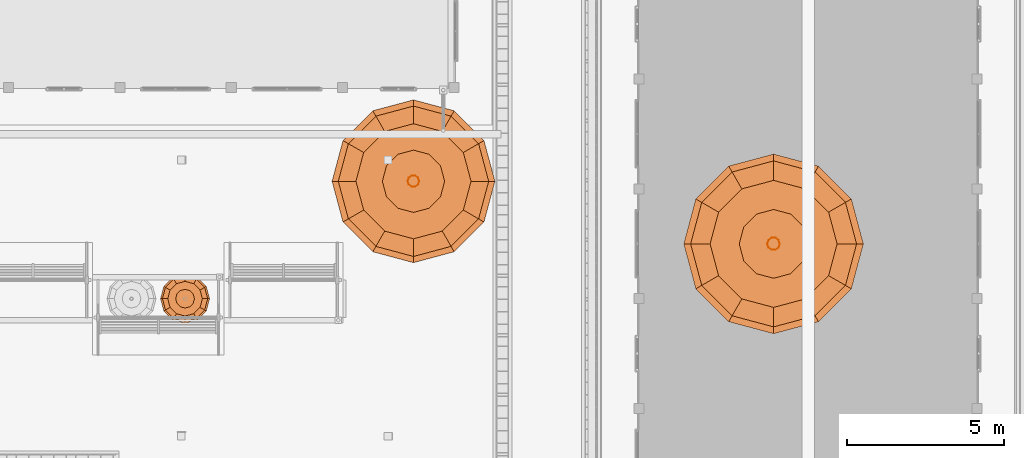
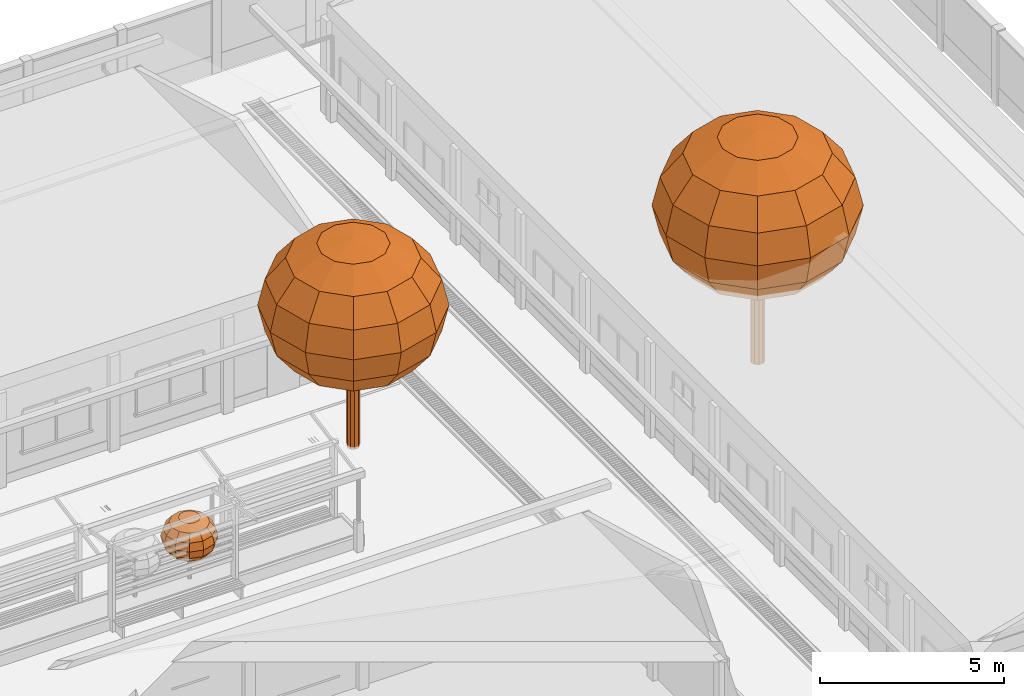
# One storey, part 162 of 166: 5 proxies.
"""IFC2X3 building model written with IfcOpenShell, lengths in metres."""

from ifc_helpers import new_model, si_unit, origin, origin_with_axes, place, context, subcontext, project, spatial, faceted_brep, element, save


model = new_model("IFC2X3")

# Units and contexts
model_context = context("Model", 3, precision=1e-05, world=origin_with_axes())
body_context = subcontext(model_context, "Body", "Model", "MODEL_VIEW")
ifc_project = project(units=[si_unit("LENGTHUNIT", "METRE"), si_unit("AREAUNIT", "SQUARE_METRE"), si_unit("VOLUMEUNIT", "CUBIC_METRE"), si_unit("PLANEANGLEUNIT", "RADIAN")], contexts=[model_context])

# Site, building, storey
site_placement = place(None, origin_with_axes())
site = spatial("IfcSite", under=ifc_project, at=site_placement, Name="Predio Los Mangos - Morales, San Martín", CompositionType="ELEMENT")
building_placement = place(site_placement, origin())
building = spatial("IfcBuilding", under=site, at=building_placement, Name="Hogar de Refugio Temporal", CompositionType="ELEMENT")
storey_placement = place(building_placement, origin())
storey = spatial("IfcBuildingStorey", under=building, at=storey_placement, Name="NIVEL 1 (NPT +0.00)", CompositionType="ELEMENT", Elevation=0.0)

# Proxies
proxy_1_placement = place(storey_placement, origin())
element("IfcBuildingElementProxy", 1, at=proxy_1_placement, inside=storey, Name="arbol_tronco", ObjectType="Árbol", context=body_context, shape_type="Brep", body=[
    faceted_brep([(48.6808, 114.0, 0.0), (48.6463, 114.1063, 0.0), (48.6463, 114.1063, 2.7122), (48.5559, 114.172, 0.0), (48.5559, 114.172, 2.7122), (48.4441, 114.172, 0.0), (48.4441, 114.172, 2.7122), (48.3537, 114.1063, 0.0), (48.3537, 114.1063, 2.7122), (48.3192, 114.0, 0.0), (48.3192, 114.0, 2.7122), (48.3537, 113.8937, 0.0), (48.3537, 113.8937, 2.7122), (48.4441, 113.828, 0.0), (48.4441, 113.828, 2.7122), (48.5559, 113.828, 0.0), (48.5559, 113.828, 2.7122), (48.6463, 113.8937, 0.0), (48.6463, 113.8937, 2.7122), (48.6808, 114.0, 2.7122)], [[[0, 1, 2]], [[1, 3, 4]], [[3, 5, 6]], [[5, 7, 8]], [[7, 9, 10]], [[9, 11, 12]], [[11, 13, 14]], [[13, 15, 16]], [[15, 17, 18]], [[17, 0, 19]], [[0, 2, 19]], [[1, 4, 2]], [[3, 6, 4]], [[5, 8, 6]], [[7, 10, 8]], [[9, 12, 10]], [[11, 14, 12]], [[13, 16, 14]], [[15, 18, 16]], [[17, 19, 18]]]),
])
proxy_2_placement = place(storey_placement, origin())
element("IfcBuildingElementProxy", 2, at=proxy_2_placement, inside=storey, Name="arbol_copa", ObjectType="Árbol", context=body_context, shape_type="Brep", body=[
    faceted_brep([(48.5, 114.0, 6.871), (48.5, 114.0, 6.871), (49.3614, 114.4973, 6.7028), (49.4947, 114.0, 6.7028), (48.5, 114.0, 6.871), (48.9973, 114.8614, 6.7028), (48.5, 114.0, 6.871), (48.5, 114.9947, 6.7028), (48.5, 114.0, 6.871), (48.0027, 114.8614, 6.7028), (48.5, 114.0, 6.871), (47.6386, 114.4973, 6.7028), (48.5, 114.0, 6.871), (47.5053, 114.0, 6.7028), (48.5, 114.0, 6.871), (47.6386, 113.5027, 6.7028), (48.5, 114.0, 6.871), (48.0027, 113.1386, 6.7028), (48.5, 114.0, 6.871), (48.5, 113.0053, 6.7028), (48.5, 114.0, 6.871), (48.9973, 113.1386, 6.7028), (48.5, 114.0, 6.871), (49.3614, 113.5027, 6.7028), (50.0917, 114.919, 6.2239), (50.3379, 114.0, 6.2239), (49.419, 115.5917, 6.2239), (48.5, 115.8379, 6.2239), (47.581, 115.5917, 6.2239), (46.9083, 114.919, 6.2239), (46.6621, 114.0, 6.2239), (46.9083, 113.081, 6.2239), (47.581, 112.4083, 6.2239), (48.5, 112.1621, 6.2239), (49.419, 112.4083, 6.2239), (50.0917, 113.081, 6.2239), (50.5796, 115.2007, 5.5071), (50.9014, 114.0, 5.5071), (49.7007, 116.0796, 5.5071), (48.5, 116.4014, 5.5071), (47.2993, 116.0796, 5.5071), (46.4204, 115.2007, 5.5071), (46.0986, 114.0, 5.5071), (46.4204, 112.7993, 5.5071), (47.2993, 111.9204, 5.5071), (48.5, 111.5986, 5.5071), (49.7007, 111.9204, 5.5071), (50.5796, 112.7993, 5.5071), (50.751, 115.2996, 4.6616), (51.0992, 114.0, 4.6616), (49.7996, 116.251, 4.6616), (48.5, 116.5992, 4.6616), (47.2004, 116.251, 4.6616), (46.249, 115.2996, 4.6616), (45.9008, 114.0, 4.6616), (46.249, 112.7004, 4.6616), (47.2004, 111.749, 4.6616), (48.5, 111.4008, 4.6616), (49.7996, 111.749, 4.6616), (50.751, 112.7004, 4.6616), (50.5796, 115.2007, 3.8162), (50.9014, 114.0, 3.8162), (49.7007, 116.0796, 3.8162), (48.5, 116.4014, 3.8162), (47.2993, 116.0796, 3.8162), (46.4204, 115.2007, 3.8162), (46.0986, 114.0, 3.8162), (46.4204, 112.7993, 3.8162), (47.2993, 111.9204, 3.8162), (48.5, 111.5986, 3.8162), (49.7007, 111.9204, 3.8162), (50.5796, 112.7993, 3.8162), (50.0917, 114.919, 3.0994), (50.3379, 114.0, 3.0994), (49.419, 115.5917, 3.0994), (48.5, 115.8379, 3.0994), (47.581, 115.5917, 3.0994), (46.9083, 114.919, 3.0994), (46.6621, 114.0, 3.0994), (46.9083, 113.081, 3.0994), (47.581, 112.4083, 3.0994), (48.5, 112.1621, 3.0994), (49.419, 112.4083, 3.0994), (50.0917, 113.081, 3.0994), (49.3614, 114.4973, 2.6205), (49.4947, 114.0, 2.6205), (48.9973, 114.8614, 2.6205), (48.5, 114.9947, 2.6205), (48.0027, 114.8614, 2.6205), (47.6386, 114.4973, 2.6205), (47.5053, 114.0, 2.6205), (47.6386, 113.5027, 2.6205), (48.0027, 113.1386, 2.6205), (48.5, 113.0053, 2.6205), (48.9973, 113.1386, 2.6205), (49.3614, 113.5027, 2.6205), (48.5, 114.0, 2.4523), (48.5, 114.0, 2.4523), (48.5, 114.0, 2.4523), (48.5, 114.0, 2.4523), (48.5, 114.0, 2.4523), (48.5, 114.0, 2.4523), (48.5, 114.0, 2.4523), (48.5, 114.0, 2.4523), (48.5, 114.0, 2.4523), (48.5, 114.0, 2.4523), (48.5, 114.0, 2.4523), (48.5, 114.0, 2.4523)], [[[0, 1, 2]], [[0, 2, 3]], [[1, 4, 5]], [[1, 5, 2]], [[4, 6, 7]], [[4, 7, 5]], [[6, 8, 9]], [[6, 9, 7]], [[8, 10, 11]], [[8, 11, 9]], [[10, 12, 13]], [[10, 13, 11]], [[12, 14, 15]], [[12, 15, 13]], [[14, 16, 17]], [[14, 17, 15]], [[16, 18, 19]], [[16, 19, 17]], [[18, 20, 21]], [[18, 21, 19]], [[20, 22, 23]], [[20, 23, 21]], [[22, 0, 3]], [[22, 3, 23]], [[3, 2, 24]], [[3, 24, 25]], [[2, 5, 26]], [[2, 26, 24]], [[5, 7, 27]], [[5, 27, 26]], [[7, 9, 28]], [[7, 28, 27]], [[9, 11, 29]], [[9, 29, 28]], [[11, 13, 30]], [[11, 30, 29]], [[13, 15, 31]], [[13, 31, 30]], [[15, 17, 32]], [[15, 32, 31]], [[17, 19, 33]], [[17, 33, 32]], [[19, 21, 34]], [[19, 34, 33]], [[21, 23, 35]], [[21, 35, 34]], [[23, 3, 25]], [[23, 25, 35]], [[25, 24, 36]], [[25, 36, 37]], [[24, 26, 38]], [[24, 38, 36]], [[26, 27, 39]], [[26, 39, 38]], [[27, 28, 40]], [[27, 40, 39]], [[28, 29, 41]], [[28, 41, 40]], [[29, 30, 42]], [[29, 42, 41]], [[30, 31, 43]], [[30, 43, 42]], [[31, 32, 44]], [[31, 44, 43]], [[32, 33, 45]], [[32, 45, 44]], [[33, 34, 46]], [[33, 46, 45]], [[34, 35, 47]], [[34, 47, 46]], [[35, 25, 37]], [[35, 37, 47]], [[37, 36, 48]], [[37, 48, 49]], [[36, 38, 50]], [[36, 50, 48]], [[38, 39, 51]], [[38, 51, 50]], [[39, 40, 52]], [[39, 52, 51]], [[40, 41, 53]], [[40, 53, 52]], [[41, 42, 54]], [[41, 54, 53]], [[42, 43, 55]], [[42, 55, 54]], [[43, 44, 56]], [[43, 56, 55]], [[44, 45, 57]], [[44, 57, 56]], [[45, 46, 58]], [[45, 58, 57]], [[46, 47, 59]], [[46, 59, 58]], [[47, 37, 49]], [[47, 49, 59]], [[49, 48, 60]], [[49, 60, 61]], [[48, 50, 62]], [[48, 62, 60]], [[50, 51, 63]], [[50, 63, 62]], [[51, 52, 64]], [[51, 64, 63]], [[52, 53, 65]], [[52, 65, 64]], [[53, 54, 66]], [[53, 66, 65]], [[54, 55, 67]], [[54, 67, 66]], [[55, 56, 68]], [[55, 68, 67]], [[56, 57, 69]], [[56, 69, 68]], [[57, 58, 70]], [[57, 70, 69]], [[58, 59, 71]], [[58, 71, 70]], [[59, 49, 61]], [[59, 61, 71]], [[61, 60, 72]], [[61, 72, 73]], [[60, 62, 74]], [[60, 74, 72]], [[62, 63, 75]], [[62, 75, 74]], [[63, 64, 76]], [[63, 76, 75]], [[64, 65, 77]], [[64, 77, 76]], [[65, 66, 78]], [[65, 78, 77]], [[66, 67, 79]], [[66, 79, 78]], [[67, 68, 80]], [[67, 80, 79]], [[68, 69, 81]], [[68, 81, 80]], [[69, 70, 82]], [[69, 82, 81]], [[70, 71, 83]], [[70, 83, 82]], [[71, 61, 73]], [[71, 73, 83]], [[73, 72, 84]], [[73, 84, 85]], [[72, 74, 86]], [[72, 86, 84]], [[74, 75, 87]], [[74, 87, 86]], [[75, 76, 88]], [[75, 88, 87]], [[76, 77, 89]], [[76, 89, 88]], [[77, 78, 90]], [[77, 90, 89]], [[78, 79, 91]], [[78, 91, 90]], [[79, 80, 92]], [[79, 92, 91]], [[80, 81, 93]], [[80, 93, 92]], [[81, 82, 94]], [[81, 94, 93]], [[82, 83, 95]], [[82, 95, 94]], [[83, 73, 85]], [[83, 85, 95]], [[85, 84, 96]], [[85, 96, 97]], [[84, 86, 98]], [[84, 98, 96]], [[86, 87, 99]], [[86, 99, 98]], [[87, 88, 100]], [[87, 100, 99]], [[88, 89, 101]], [[88, 101, 100]], [[89, 90, 102]], [[89, 102, 101]], [[90, 91, 103]], [[90, 103, 102]], [[91, 92, 104]], [[91, 104, 103]], [[92, 93, 105]], [[92, 105, 104]], [[93, 94, 106]], [[93, 106, 105]], [[94, 95, 107]], [[94, 107, 106]], [[95, 85, 97]], [[95, 97, 107]]]),
])
proxy_3_placement = place(storey_placement, origin())
element("IfcBuildingElementProxy", 3, at=proxy_3_placement, inside=storey, Name="arbol_tronco", ObjectType="Árbol", context=body_context, shape_type="Brep", body=[
    faceted_brep([(60.1996, 112.0, 0.0), (60.1614, 112.1173, 0.0), (60.1614, 112.1173, 2.9934), (60.0617, 112.1898, 0.0), (60.0617, 112.1898, 2.9934), (59.9383, 112.1898, 0.0), (59.9383, 112.1898, 2.9934), (59.8386, 112.1173, 0.0), (59.8386, 112.1173, 2.9934), (59.8004, 112.0, 0.0), (59.8004, 112.0, 2.9934), (59.8386, 111.8827, 0.0), (59.8386, 111.8827, 2.9934), (59.9383, 111.8102, 0.0), (59.9383, 111.8102, 2.9934), (60.0617, 111.8102, 0.0), (60.0617, 111.8102, 2.9934), (60.1614, 111.8827, 0.0), (60.1614, 111.8827, 2.9934), (60.1996, 112.0, 2.9934)], [[[0, 1, 2]], [[1, 3, 4]], [[3, 5, 6]], [[5, 7, 8]], [[7, 9, 10]], [[9, 11, 12]], [[11, 13, 14]], [[13, 15, 16]], [[15, 17, 18]], [[17, 0, 19]], [[0, 2, 19]], [[1, 4, 2]], [[3, 6, 4]], [[5, 8, 6]], [[7, 10, 8]], [[9, 12, 10]], [[11, 14, 12]], [[13, 16, 14]], [[15, 18, 16]], [[17, 19, 18]]]),
])
proxy_4_placement = place(storey_placement, origin())
element("IfcBuildingElementProxy", 4, at=proxy_4_placement, inside=storey, Name="arbol_copa", ObjectType="Árbol", context=body_context, shape_type="Brep", body=[
    faceted_brep([(60.0, 112.0, 7.5832), (60.0, 112.0, 7.5832), (60.9507, 112.5489, 7.3976), (61.0978, 112.0, 7.3976), (60.0, 112.0, 7.5832), (60.5489, 112.9507, 7.3976), (60.0, 112.0, 7.5832), (60.0, 113.0978, 7.3976), (60.0, 112.0, 7.5832), (59.4511, 112.9507, 7.3976), (60.0, 112.0, 7.5832), (59.0493, 112.5489, 7.3976), (60.0, 112.0, 7.5832), (58.9022, 112.0, 7.3976), (60.0, 112.0, 7.5832), (59.0493, 111.4511, 7.3976), (60.0, 112.0, 7.5832), (59.4511, 111.0493, 7.3976), (60.0, 112.0, 7.5832), (60.0, 110.9022, 7.3976), (60.0, 112.0, 7.5832), (60.5489, 111.0493, 7.3976), (60.0, 112.0, 7.5832), (60.9507, 111.4511, 7.3976), (61.7567, 113.0142, 6.869), (62.0284, 112.0, 6.869), (61.0142, 113.7567, 6.869), (60.0, 114.0284, 6.869), (58.9858, 113.7567, 6.869), (58.2433, 113.0142, 6.869), (57.9716, 112.0, 6.869), (58.2433, 110.9858, 6.869), (58.9858, 110.2433, 6.869), (60.0, 109.9716, 6.869), (61.0142, 110.2433, 6.869), (61.7567, 110.9858, 6.869), (62.2952, 113.3251, 6.078), (62.6503, 112.0, 6.078), (61.3251, 114.2952, 6.078), (60.0, 114.6503, 6.078), (58.6749, 114.2952, 6.078), (57.7048, 113.3251, 6.078), (57.3497, 112.0, 6.078), (57.7048, 110.6749, 6.078), (58.6749, 109.7048, 6.078), (60.0, 109.3497, 6.078), (61.3251, 109.7048, 6.078), (62.2952, 110.6749, 6.078), (62.4843, 113.4343, 5.1449), (62.8686, 112.0, 5.1449), (61.4343, 114.4843, 5.1449), (60.0, 114.8686, 5.1449), (58.5657, 114.4843, 5.1449), (57.5157, 113.4343, 5.1449), (57.1314, 112.0, 5.1449), (57.5157, 110.5657, 5.1449), (58.5657, 109.5157, 5.1449), (60.0, 109.1314, 5.1449), (61.4343, 109.5157, 5.1449), (62.4843, 110.5657, 5.1449), (62.2952, 113.3251, 4.2117), (62.6503, 112.0, 4.2117), (61.3251, 114.2952, 4.2117), (60.0, 114.6503, 4.2117), (58.6749, 114.2952, 4.2117), (57.7048, 113.3251, 4.2117), (57.3497, 112.0, 4.2117), (57.7048, 110.6749, 4.2117), (58.6749, 109.7048, 4.2117), (60.0, 109.3497, 4.2117), (61.3251, 109.7048, 4.2117), (62.2952, 110.6749, 4.2117), (61.7567, 113.0142, 3.4207), (62.0284, 112.0, 3.4207), (61.0142, 113.7567, 3.4207), (60.0, 114.0284, 3.4207), (58.9858, 113.7567, 3.4207), (58.2433, 113.0142, 3.4207), (57.9716, 112.0, 3.4207), (58.2433, 110.9858, 3.4207), (58.9858, 110.2433, 3.4207), (60.0, 109.9716, 3.4207), (61.0142, 110.2433, 3.4207), (61.7567, 110.9858, 3.4207), (60.9507, 112.5489, 2.8921), (61.0978, 112.0, 2.8921), (60.5489, 112.9507, 2.8921), (60.0, 113.0978, 2.8921), (59.4511, 112.9507, 2.8921), (59.0493, 112.5489, 2.8921), (58.9022, 112.0, 2.8921), (59.0493, 111.4511, 2.8921), (59.4511, 111.0493, 2.8921), (60.0, 110.9022, 2.8921), (60.5489, 111.0493, 2.8921), (60.9507, 111.4511, 2.8921), (60.0, 112.0, 2.7065), (60.0, 112.0, 2.7065), (60.0, 112.0, 2.7065), (60.0, 112.0, 2.7065), (60.0, 112.0, 2.7065), (60.0, 112.0, 2.7065), (60.0, 112.0, 2.7065), (60.0, 112.0, 2.7065), (60.0, 112.0, 2.7065), (60.0, 112.0, 2.7065), (60.0, 112.0, 2.7065), (60.0, 112.0, 2.7065)], [[[0, 1, 2]], [[0, 2, 3]], [[1, 4, 5]], [[1, 5, 2]], [[4, 6, 7]], [[4, 7, 5]], [[6, 8, 9]], [[6, 9, 7]], [[8, 10, 11]], [[8, 11, 9]], [[10, 12, 13]], [[10, 13, 11]], [[12, 14, 15]], [[12, 15, 13]], [[14, 16, 17]], [[14, 17, 15]], [[16, 18, 19]], [[16, 19, 17]], [[18, 20, 21]], [[18, 21, 19]], [[20, 22, 23]], [[20, 23, 21]], [[22, 0, 3]], [[22, 3, 23]], [[3, 2, 24]], [[3, 24, 25]], [[2, 5, 26]], [[2, 26, 24]], [[5, 7, 27]], [[5, 27, 26]], [[7, 9, 28]], [[7, 28, 27]], [[9, 11, 29]], [[9, 29, 28]], [[11, 13, 30]], [[11, 30, 29]], [[13, 15, 31]], [[13, 31, 30]], [[15, 17, 32]], [[15, 32, 31]], [[17, 19, 33]], [[17, 33, 32]], [[19, 21, 34]], [[19, 34, 33]], [[21, 23, 35]], [[21, 35, 34]], [[23, 3, 25]], [[23, 25, 35]], [[25, 24, 36]], [[25, 36, 37]], [[24, 26, 38]], [[24, 38, 36]], [[26, 27, 39]], [[26, 39, 38]], [[27, 28, 40]], [[27, 40, 39]], [[28, 29, 41]], [[28, 41, 40]], [[29, 30, 42]], [[29, 42, 41]], [[30, 31, 43]], [[30, 43, 42]], [[31, 32, 44]], [[31, 44, 43]], [[32, 33, 45]], [[32, 45, 44]], [[33, 34, 46]], [[33, 46, 45]], [[34, 35, 47]], [[34, 47, 46]], [[35, 25, 37]], [[35, 37, 47]], [[37, 36, 48]], [[37, 48, 49]], [[36, 38, 50]], [[36, 50, 48]], [[38, 39, 51]], [[38, 51, 50]], [[39, 40, 52]], [[39, 52, 51]], [[40, 41, 53]], [[40, 53, 52]], [[41, 42, 54]], [[41, 54, 53]], [[42, 43, 55]], [[42, 55, 54]], [[43, 44, 56]], [[43, 56, 55]], [[44, 45, 57]], [[44, 57, 56]], [[45, 46, 58]], [[45, 58, 57]], [[46, 47, 59]], [[46, 59, 58]], [[47, 37, 49]], [[47, 49, 59]], [[49, 48, 60]], [[49, 60, 61]], [[48, 50, 62]], [[48, 62, 60]], [[50, 51, 63]], [[50, 63, 62]], [[51, 52, 64]], [[51, 64, 63]], [[52, 53, 65]], [[52, 65, 64]], [[53, 54, 66]], [[53, 66, 65]], [[54, 55, 67]], [[54, 67, 66]], [[55, 56, 68]], [[55, 68, 67]], [[56, 57, 69]], [[56, 69, 68]], [[57, 58, 70]], [[57, 70, 69]], [[58, 59, 71]], [[58, 71, 70]], [[59, 49, 61]], [[59, 61, 71]], [[61, 60, 72]], [[61, 72, 73]], [[60, 62, 74]], [[60, 74, 72]], [[62, 63, 75]], [[62, 75, 74]], [[63, 64, 76]], [[63, 76, 75]], [[64, 65, 77]], [[64, 77, 76]], [[65, 66, 78]], [[65, 78, 77]], [[66, 67, 79]], [[66, 79, 78]], [[67, 68, 80]], [[67, 80, 79]], [[68, 69, 81]], [[68, 81, 80]], [[69, 70, 82]], [[69, 82, 81]], [[70, 71, 83]], [[70, 83, 82]], [[71, 61, 73]], [[71, 73, 83]], [[73, 72, 84]], [[73, 84, 85]], [[72, 74, 86]], [[72, 86, 84]], [[74, 75, 87]], [[74, 87, 86]], [[75, 76, 88]], [[75, 88, 87]], [[76, 77, 89]], [[76, 89, 88]], [[77, 78, 90]], [[77, 90, 89]], [[78, 79, 91]], [[78, 91, 90]], [[79, 80, 92]], [[79, 92, 91]], [[80, 81, 93]], [[80, 93, 92]], [[81, 82, 94]], [[81, 94, 93]], [[82, 83, 95]], [[82, 95, 94]], [[83, 73, 85]], [[83, 85, 95]], [[85, 84, 96]], [[85, 96, 97]], [[84, 86, 98]], [[84, 98, 96]], [[86, 87, 99]], [[86, 99, 98]], [[87, 88, 100]], [[87, 100, 99]], [[88, 89, 101]], [[88, 101, 100]], [[89, 90, 102]], [[89, 102, 101]], [[90, 91, 103]], [[90, 103, 102]], [[91, 92, 104]], [[91, 104, 103]], [[92, 93, 105]], [[92, 105, 104]], [[93, 94, 106]], [[93, 106, 105]], [[94, 95, 107]], [[94, 107, 106]], [[95, 85, 97]], [[95, 97, 107]]]),
])
proxy_5_placement = place(storey_placement, origin())
element("IfcBuildingElementProxy", 5, at=proxy_5_placement, inside=storey, Name="arbol_copa", ObjectType="Árbol", context=body_context, shape_type="Brep", body=[
    faceted_brep([(41.205, 110.25, 2.5172), (41.205, 110.25, 2.5172), (41.4642, 110.3996, 2.4666), (41.5043, 110.25, 2.4666), (41.205, 110.25, 2.5172), (41.3546, 110.5092, 2.4666), (41.205, 110.25, 2.5172), (41.205, 110.5493, 2.4666), (41.205, 110.25, 2.5172), (41.0554, 110.5092, 2.4666), (41.205, 110.25, 2.5172), (40.9458, 110.3996, 2.4666), (41.205, 110.25, 2.5172), (40.9057, 110.25, 2.4666), (41.205, 110.25, 2.5172), (40.9458, 110.1004, 2.4666), (41.205, 110.25, 2.5172), (41.0554, 109.9908, 2.4666), (41.205, 110.25, 2.5172), (41.205, 109.9507, 2.4666), (41.205, 110.25, 2.5172), (41.3546, 109.9908, 2.4666), (41.205, 110.25, 2.5172), (41.4642, 110.1004, 2.4666), (41.6839, 110.5265, 2.3225), (41.758, 110.25, 2.3225), (41.4815, 110.7289, 2.3225), (41.205, 110.803, 2.3225), (40.9285, 110.7289, 2.3225), (40.7261, 110.5265, 2.3225), (40.652, 110.25, 2.3225), (40.7261, 109.9735, 2.3225), (40.9285, 109.7711, 2.3225), (41.205, 109.697, 2.3225), (41.4815, 109.7711, 2.3225), (41.6839, 109.9735, 2.3225), (41.8307, 110.6112, 2.1069), (41.9275, 110.25, 2.1069), (41.5662, 110.8757, 2.1069), (41.205, 110.9725, 2.1069), (40.8438, 110.8757, 2.1069), (40.5793, 110.6112, 2.1069), (40.4825, 110.25, 2.1069), (40.5793, 109.8888, 2.1069), (40.8438, 109.6243, 2.1069), (41.205, 109.5275, 2.1069), (41.5662, 109.6243, 2.1069), (41.8307, 109.8888, 2.1069), (41.8822, 110.641, 1.8525), (41.987, 110.25, 1.8525), (41.596, 110.9272, 1.8525), (41.205, 111.032, 1.8525), (40.814, 110.9272, 1.8525), (40.5278, 110.641, 1.8525), (40.423, 110.25, 1.8525), (40.5278, 109.859, 1.8525), (40.814, 109.5728, 1.8525), (41.205, 109.468, 1.8525), (41.596, 109.5728, 1.8525), (41.8822, 109.859, 1.8525), (41.8307, 110.6112, 1.5981), (41.9275, 110.25, 1.5981), (41.5662, 110.8757, 1.5981), (41.205, 110.9725, 1.5981), (40.8438, 110.8757, 1.5981), (40.5793, 110.6112, 1.5981), (40.4825, 110.25, 1.5981), (40.5793, 109.8888, 1.5981), (40.8438, 109.6243, 1.5981), (41.205, 109.5275, 1.5981), (41.5662, 109.6243, 1.5981), (41.8307, 109.8888, 1.5981), (41.6839, 110.5265, 1.3825), (41.758, 110.25, 1.3825), (41.4815, 110.7289, 1.3825), (41.205, 110.803, 1.3825), (40.9285, 110.7289, 1.3825), (40.7261, 110.5265, 1.3825), (40.652, 110.25, 1.3825), (40.7261, 109.9735, 1.3825), (40.9285, 109.7711, 1.3825), (41.205, 109.697, 1.3825), (41.4815, 109.7711, 1.3825), (41.6839, 109.9735, 1.3825), (41.4642, 110.3996, 1.2384), (41.5043, 110.25, 1.2384), (41.3546, 110.5092, 1.2384), (41.205, 110.5493, 1.2384), (41.0554, 110.5092, 1.2384), (40.9458, 110.3996, 1.2384), (40.9057, 110.25, 1.2384), (40.9458, 110.1004, 1.2384), (41.0554, 109.9908, 1.2384), (41.205, 109.9507, 1.2384), (41.3546, 109.9908, 1.2384), (41.4642, 110.1004, 1.2384), (41.205, 110.25, 1.1878), (41.205, 110.25, 1.1878), (41.205, 110.25, 1.1878), (41.205, 110.25, 1.1878), (41.205, 110.25, 1.1878), (41.205, 110.25, 1.1878), (41.205, 110.25, 1.1878), (41.205, 110.25, 1.1878), (41.205, 110.25, 1.1878), (41.205, 110.25, 1.1878), (41.205, 110.25, 1.1878), (41.205, 110.25, 1.1878)], [[[0, 1, 2]], [[0, 2, 3]], [[1, 4, 5]], [[1, 5, 2]], [[4, 6, 7]], [[4, 7, 5]], [[6, 8, 9]], [[6, 9, 7]], [[8, 10, 11]], [[8, 11, 9]], [[10, 12, 13]], [[10, 13, 11]], [[12, 14, 15]], [[12, 15, 13]], [[14, 16, 17]], [[14, 17, 15]], [[16, 18, 19]], [[16, 19, 17]], [[18, 20, 21]], [[18, 21, 19]], [[20, 22, 23]], [[20, 23, 21]], [[22, 0, 3]], [[22, 3, 23]], [[3, 2, 24]], [[3, 24, 25]], [[2, 5, 26]], [[2, 26, 24]], [[5, 7, 27]], [[5, 27, 26]], [[7, 9, 28]], [[7, 28, 27]], [[9, 11, 29]], [[9, 29, 28]], [[11, 13, 30]], [[11, 30, 29]], [[13, 15, 31]], [[13, 31, 30]], [[15, 17, 32]], [[15, 32, 31]], [[17, 19, 33]], [[17, 33, 32]], [[19, 21, 34]], [[19, 34, 33]], [[21, 23, 35]], [[21, 35, 34]], [[23, 3, 25]], [[23, 25, 35]], [[25, 24, 36]], [[25, 36, 37]], [[24, 26, 38]], [[24, 38, 36]], [[26, 27, 39]], [[26, 39, 38]], [[27, 28, 40]], [[27, 40, 39]], [[28, 29, 41]], [[28, 41, 40]], [[29, 30, 42]], [[29, 42, 41]], [[30, 31, 43]], [[30, 43, 42]], [[31, 32, 44]], [[31, 44, 43]], [[32, 33, 45]], [[32, 45, 44]], [[33, 34, 46]], [[33, 46, 45]], [[34, 35, 47]], [[34, 47, 46]], [[35, 25, 37]], [[35, 37, 47]], [[37, 36, 48]], [[37, 48, 49]], [[36, 38, 50]], [[36, 50, 48]], [[38, 39, 51]], [[38, 51, 50]], [[39, 40, 52]], [[39, 52, 51]], [[40, 41, 53]], [[40, 53, 52]], [[41, 42, 54]], [[41, 54, 53]], [[42, 43, 55]], [[42, 55, 54]], [[43, 44, 56]], [[43, 56, 55]], [[44, 45, 57]], [[44, 57, 56]], [[45, 46, 58]], [[45, 58, 57]], [[46, 47, 59]], [[46, 59, 58]], [[47, 37, 49]], [[47, 49, 59]], [[49, 48, 60]], [[49, 60, 61]], [[48, 50, 62]], [[48, 62, 60]], [[50, 51, 63]], [[50, 63, 62]], [[51, 52, 64]], [[51, 64, 63]], [[52, 53, 65]], [[52, 65, 64]], [[53, 54, 66]], [[53, 66, 65]], [[54, 55, 67]], [[54, 67, 66]], [[55, 56, 68]], [[55, 68, 67]], [[56, 57, 69]], [[56, 69, 68]], [[57, 58, 70]], [[57, 70, 69]], [[58, 59, 71]], [[58, 71, 70]], [[59, 49, 61]], [[59, 61, 71]], [[61, 60, 72]], [[61, 72, 73]], [[60, 62, 74]], [[60, 74, 72]], [[62, 63, 75]], [[62, 75, 74]], [[63, 64, 76]], [[63, 76, 75]], [[64, 65, 77]], [[64, 77, 76]], [[65, 66, 78]], [[65, 78, 77]], [[66, 67, 79]], [[66, 79, 78]], [[67, 68, 80]], [[67, 80, 79]], [[68, 69, 81]], [[68, 81, 80]], [[69, 70, 82]], [[69, 82, 81]], [[70, 71, 83]], [[70, 83, 82]], [[71, 61, 73]], [[71, 73, 83]], [[73, 72, 84]], [[73, 84, 85]], [[72, 74, 86]], [[72, 86, 84]], [[74, 75, 87]], [[74, 87, 86]], [[75, 76, 88]], [[75, 88, 87]], [[76, 77, 89]], [[76, 89, 88]], [[77, 78, 90]], [[77, 90, 89]], [[78, 79, 91]], [[78, 91, 90]], [[79, 80, 92]], [[79, 92, 91]], [[80, 81, 93]], [[80, 93, 92]], [[81, 82, 94]], [[81, 94, 93]], [[82, 83, 95]], [[82, 95, 94]], [[83, 73, 85]], [[83, 85, 95]], [[85, 84, 96]], [[85, 96, 97]], [[84, 86, 98]], [[84, 98, 96]], [[86, 87, 99]], [[86, 99, 98]], [[87, 88, 100]], [[87, 100, 99]], [[88, 89, 101]], [[88, 101, 100]], [[89, 90, 102]], [[89, 102, 101]], [[90, 91, 103]], [[90, 103, 102]], [[91, 92, 104]], [[91, 104, 103]], [[92, 93, 105]], [[92, 105, 104]], [[93, 94, 106]], [[93, 106, 105]], [[94, 95, 107]], [[94, 107, 106]], [[95, 85, 97]], [[95, 97, 107]]]),
])

save(model, "model.ifc")
